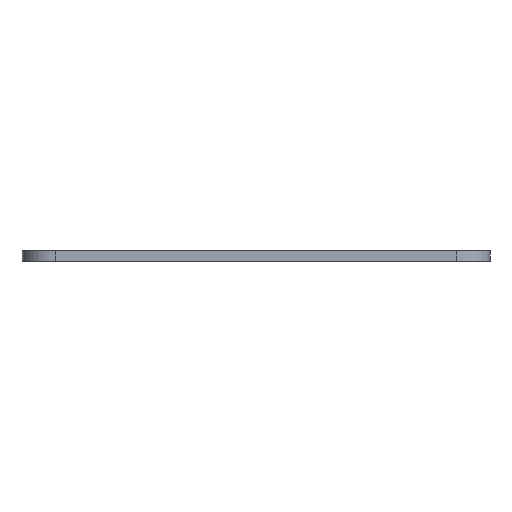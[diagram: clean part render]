
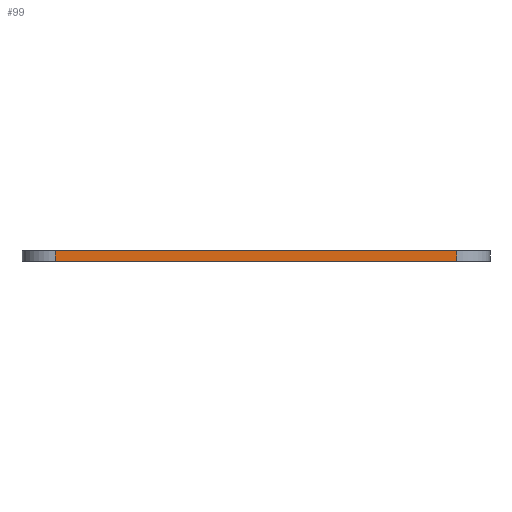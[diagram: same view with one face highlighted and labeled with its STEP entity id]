
A CAD part, front view. The second image highlights one B-rep face of the part: STEP entity #99.
In plain terms, the highlighted planar face has unit normal (0, -1, 0).
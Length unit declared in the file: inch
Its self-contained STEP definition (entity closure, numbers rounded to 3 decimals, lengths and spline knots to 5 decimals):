
#7 = LINE ( 'NONE', #442, #8 ) ;
#8 = VECTOR ( 'NONE', #443, 39.37008 ) ;
#36 = EDGE_CURVE ( 'NONE', #74, #73, #285, .T. ) ;
#46 = EDGE_CURVE ( 'NONE', #72, #73, #295, .T. ) ;
#47 = EDGE_CURVE ( 'NONE', #74, #71, #301, .T. ) ;
#49 = EDGE_CURVE ( 'NONE', #71, #72, #7, .T. ) ;
#71 = VERTEX_POINT ( 'NONE', #480 ) ;
#72 = VERTEX_POINT ( 'NONE', #481 ) ;
#73 = VERTEX_POINT ( 'NONE', #482 ) ;
#74 = VERTEX_POINT ( 'NONE', #483 ) ;
#99 = ADVANCED_FACE ( 'NONE', ( #582 ), #534, .F. ) ;
#117 = ORIENTED_EDGE ( 'NONE', *, *, #46, .T. ) ;
#118 = ORIENTED_EDGE ( 'NONE', *, *, #36, .F. ) ;
#120 = ORIENTED_EDGE ( 'NONE', *, *, #47, .T. ) ;
#230 = EDGE_LOOP ( 'NONE', ( #283, #117, #118, #120 ) ) ;
#283 = ORIENTED_EDGE ( 'NONE', *, *, #49, .T. ) ;
#285 = LINE ( 'NONE', #415, #287 ) ;
#287 = VECTOR ( 'NONE', #416, 39.37008 ) ;
#295 = LINE ( 'NONE', #430, #308 ) ;
#301 = LINE ( 'NONE', #436, #310 ) ;
#308 = VECTOR ( 'NONE', #437, 39.37008 ) ;
#310 = VECTOR ( 'NONE', #439, 39.37008 ) ;
#382 = AXIS2_PLACEMENT_3D ( 'NONE', #537, #543, #544 ) ;
#415 = CARTESIAN_POINT ( 'NONE',  ( -1.3425, 0., 0.0625 ) ) ;
#416 = DIRECTION ( 'NONE',  ( 1., 0., 0. ) ) ;
#430 = CARTESIAN_POINT ( 'NONE',  ( 1.15188, 0., 0.0625 ) ) ;
#436 = CARTESIAN_POINT ( 'NONE',  ( -1.15188, 0., 0.0625 ) ) ;
#437 = DIRECTION ( 'NONE',  ( 0., 0., 1. ) ) ;
#439 = DIRECTION ( 'NONE',  ( 0., 0., -1. ) ) ;
#442 = CARTESIAN_POINT ( 'NONE',  ( -1.3425, 0., 0. ) ) ;
#443 = DIRECTION ( 'NONE',  ( 1., 0., 0. ) ) ;
#480 = CARTESIAN_POINT ( 'NONE',  ( -1.15188, 0., 0. ) ) ;
#481 = CARTESIAN_POINT ( 'NONE',  ( 1.15188, 0., 0. ) ) ;
#482 = CARTESIAN_POINT ( 'NONE',  ( 1.15188, 0., 0.0625 ) ) ;
#483 = CARTESIAN_POINT ( 'NONE',  ( -1.15188, 0., 0.0625 ) ) ;
#534 = PLANE ( 'NONE',  #382 ) ;
#537 = CARTESIAN_POINT ( 'NONE',  ( -1.3425, 0., 0.0625 ) ) ;
#543 = DIRECTION ( 'NONE',  ( 0., 1., 0. ) ) ;
#544 = DIRECTION ( 'NONE',  ( 0., 0., 1. ) ) ;
#582 = FACE_OUTER_BOUND ( 'NONE', #230, .T. ) ;
